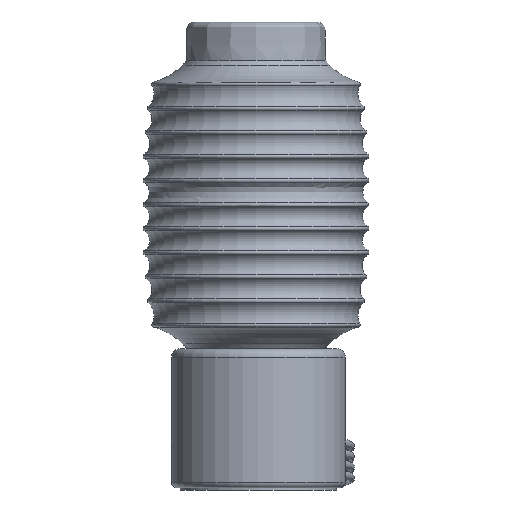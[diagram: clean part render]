
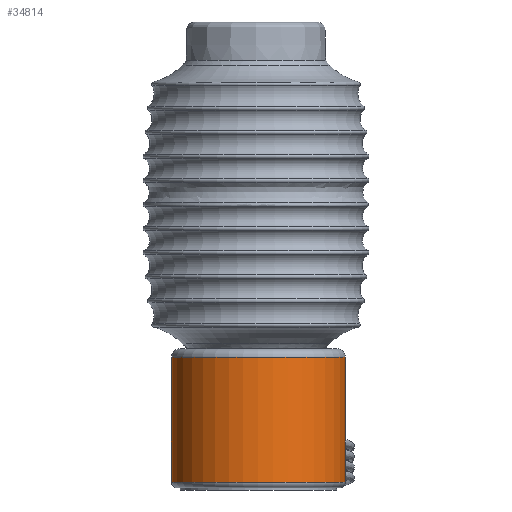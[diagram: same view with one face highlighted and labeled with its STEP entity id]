
A CAD part, front view. The second image highlights one B-rep face of the part: STEP entity #34814.
In plain terms, the highlighted cylindrical face has radius 63.5 mm (diameter 127 mm), a full revolution.
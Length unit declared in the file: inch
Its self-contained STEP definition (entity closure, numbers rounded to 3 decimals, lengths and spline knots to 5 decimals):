
#175=FACE_BOUND('',#5949,.T.);
#412=B_SPLINE_CURVE_WITH_KNOTS('',3,(#46337,#46338,#46339,#46340,#46341,
#46342,#46343,#46344,#46345,#46346,#46347,#46348,#46349,#46350,#46351,#46352,
#46353,#46354,#46355,#46356,#46357,#46358,#46359,#46360,#46361,#46362,#46363,
#46364,#46365,#46366,#46367,#46368,#46369,#46370),.UNSPECIFIED.,.T.,.F.,
(4,2,2,2,2,2,2,2,2,2,2,2,2,2,2,2,4),(0.,0.19144,0.38288,
0.57429,0.7657,0.95719,1.14868,
1.34013,1.53157,1.72302,1.91447,2.10596,
2.29745,2.48886,2.68027,2.87171,3.06315),
 .UNSPECIFIED.);
#3922=FACE_OUTER_BOUND('',#5948,.T.);
#5948=EDGE_LOOP('',(#23974,#23975,#23976,#23977));
#5949=EDGE_LOOP('',(#23978));
#8145=LINE('',#46335,#11403);
#11403=VECTOR('',#38698,2.5);
#14666=CIRCLE('',#37019,2.5);
#14669=CIRCLE('',#37023,2.5);
#15074=VERTEX_POINT('',#46327);
#15076=VERTEX_POINT('',#46333);
#15077=VERTEX_POINT('',#46336);
#18595=EDGE_CURVE('',#15074,#15074,#14666,.T.);
#18598=EDGE_CURVE('',#15076,#15076,#14669,.T.);
#18599=EDGE_CURVE('',#15076,#15074,#8145,.T.);
#18600=EDGE_CURVE('',#15077,#15077,#412,.F.);
#23974=ORIENTED_EDGE('',*,*,#18598,.F.);
#23975=ORIENTED_EDGE('',*,*,#18599,.T.);
#23976=ORIENTED_EDGE('',*,*,#18595,.F.);
#23977=ORIENTED_EDGE('',*,*,#18599,.F.);
#23978=ORIENTED_EDGE('',*,*,#18600,.T.);
#34680=CYLINDRICAL_SURFACE('',#37022,2.5);
#34814=ADVANCED_FACE('',(#3922,#175),#34680,.T.);
#37019=AXIS2_PLACEMENT_3D('',#46328,#38688,#38689);
#37022=AXIS2_PLACEMENT_3D('',#46332,#38694,#38695);
#37023=AXIS2_PLACEMENT_3D('',#46334,#38696,#38697);
#38688=DIRECTION('center_axis',(0.,0.,-1.));
#38689=DIRECTION('ref_axis',(1.,0.,0.));
#38694=DIRECTION('center_axis',(0.,0.,1.));
#38695=DIRECTION('ref_axis',(1.,0.,0.));
#38696=DIRECTION('center_axis',(0.,0.,1.));
#38697=DIRECTION('ref_axis',(1.,0.,0.));
#38698=DIRECTION('',(0.,0.,-1.));
#46327=CARTESIAN_POINT('',(-2.5,0.,0.16));
#46328=CARTESIAN_POINT('Origin',(0.,0.,0.16));
#46332=CARTESIAN_POINT('Origin',(0.,0.,0.));
#46333=CARTESIAN_POINT('',(-2.5,0.,3.75));
#46334=CARTESIAN_POINT('Origin',(0.,0.,3.75));
#46335=CARTESIAN_POINT('',(-2.5,0.,0.));
#46336=CARTESIAN_POINT('',(-0.18297,2.4933,0.60024));
#46337=CARTESIAN_POINT('Ctrl Pts',(-0.18297,2.4933,
0.60024));
#46338=CARTESIAN_POINT('Ctrl Pts',(-0.18297,2.4933,
0.62537));
#46339=CARTESIAN_POINT('Ctrl Pts',(-0.17795,2.49368,
0.65216));
#46340=CARTESIAN_POINT('Ctrl Pts',(-0.15753,2.49505,
0.70143));
#46341=CARTESIAN_POINT('Ctrl Pts',(-0.14214,2.49602,0.72392));
#46342=CARTESIAN_POINT('Ctrl Pts',(-0.10663,2.49779,0.75942));
#46343=CARTESIAN_POINT('Ctrl Pts',(-0.08415,2.49871,
0.77481));
#46344=CARTESIAN_POINT('Ctrl Pts',(-0.03488,2.49988,
0.79522));
#46345=CARTESIAN_POINT('Ctrl Pts',(-0.00809,2.50011,
0.80024));
#46346=CARTESIAN_POINT('Ctrl Pts',(0.04216,2.49977,
0.80024));
#46347=CARTESIAN_POINT('Ctrl Pts',(0.06896,2.49917,
0.79522));
#46348=CARTESIAN_POINT('Ctrl Pts',(0.11823,2.49732,0.7748));
#46349=CARTESIAN_POINT('Ctrl Pts',(0.14071,2.4961,0.75941));
#46350=CARTESIAN_POINT('Ctrl Pts',(0.17621,2.49385,0.72391));
#46351=CARTESIAN_POINT('Ctrl Pts',(0.1916,2.49267,0.70143));
#46352=CARTESIAN_POINT('Ctrl Pts',(0.21201,2.49102,0.65216));
#46353=CARTESIAN_POINT('Ctrl Pts',(0.21703,2.49056,0.62537));
#46354=CARTESIAN_POINT('Ctrl Pts',(0.21703,2.49056,0.57512));
#46355=CARTESIAN_POINT('Ctrl Pts',(0.21201,2.49102,0.54833));
#46356=CARTESIAN_POINT('Ctrl Pts',(0.1916,2.49267,0.49906));
#46357=CARTESIAN_POINT('Ctrl Pts',(0.17621,2.49385,0.47658));
#46358=CARTESIAN_POINT('Ctrl Pts',(0.14071,2.4961,0.44108));
#46359=CARTESIAN_POINT('Ctrl Pts',(0.11823,2.49732,0.42568));
#46360=CARTESIAN_POINT('Ctrl Pts',(0.06896,2.49917,
0.40527));
#46361=CARTESIAN_POINT('Ctrl Pts',(0.04216,2.49977,
0.40024));
#46362=CARTESIAN_POINT('Ctrl Pts',(-0.00809,2.50011,
0.40024));
#46363=CARTESIAN_POINT('Ctrl Pts',(-0.03488,2.49988,
0.40526));
#46364=CARTESIAN_POINT('Ctrl Pts',(-0.08415,2.49871,
0.42567));
#46365=CARTESIAN_POINT('Ctrl Pts',(-0.10663,2.49779,0.44106));
#46366=CARTESIAN_POINT('Ctrl Pts',(-0.14214,2.49602,0.47657));
#46367=CARTESIAN_POINT('Ctrl Pts',(-0.15753,2.49505,
0.49905));
#46368=CARTESIAN_POINT('Ctrl Pts',(-0.17795,2.49368,
0.54833));
#46369=CARTESIAN_POINT('Ctrl Pts',(-0.18297,2.4933,
0.57512));
#46370=CARTESIAN_POINT('Ctrl Pts',(-0.18297,2.4933,
0.60024));
